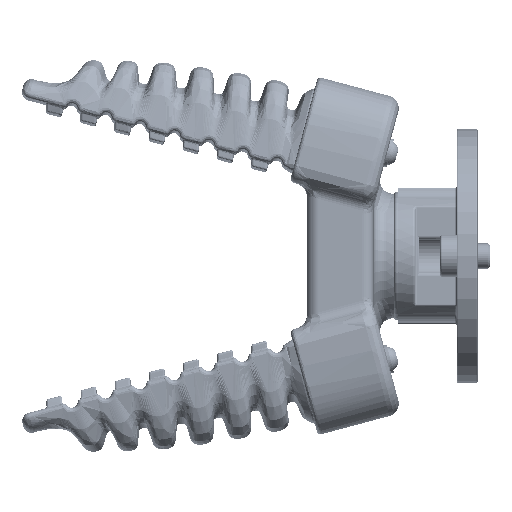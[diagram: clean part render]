
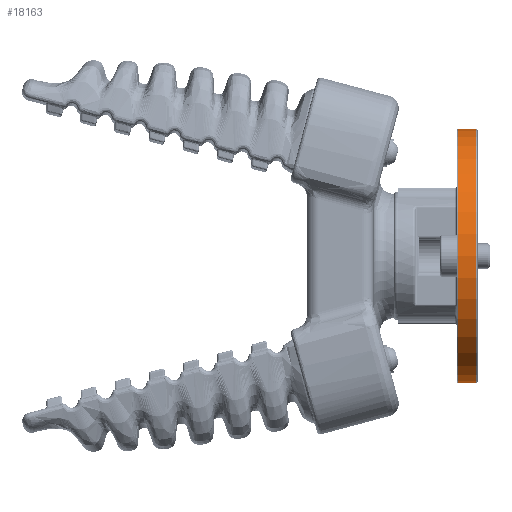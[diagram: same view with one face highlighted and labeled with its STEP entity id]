
A CAD part, top view. The second image highlights one B-rep face of the part: STEP entity #18163.
In plain terms, the highlighted cylindrical face has radius 30.5 mm (diameter 61 mm), a partial arc.
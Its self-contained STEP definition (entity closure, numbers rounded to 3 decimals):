
#2991 = VERTEX_POINT ( 'NONE', #52348 ) ;
#3306 = VECTOR ( 'NONE', #68168, 1000. ) ;
#4565 = CIRCLE ( 'NONE', #75333, 30.5 ) ;
#4987 = DIRECTION ( 'NONE',  ( -1., 0., 0. ) ) ;
#11929 = CARTESIAN_POINT ( 'NONE',  ( 30.5, 0., 18.7 ) ) ;
#16062 = CARTESIAN_POINT ( 'NONE',  ( 0., 0., 19. ) ) ;
#18163 = ADVANCED_FACE ( 'NONE', ( #141710 ), #128462, .T. ) ;
#21613 = EDGE_CURVE ( 'NONE', #2991, #143977, #38737, .T. ) ;
#22099 = AXIS2_PLACEMENT_3D ( 'NONE', #16062, #106258, #4987 ) ;
#33923 = EDGE_LOOP ( 'NONE', ( #68486, #139747, #76899, #57033 ) ) ;
#37082 = CARTESIAN_POINT ( 'NONE',  ( -30.5, 0., 14.3 ) ) ;
#38737 = CIRCLE ( 'NONE', #130921, 30.5 ) ;
#39280 = EDGE_CURVE ( 'NONE', #114781, #119460, #4565, .T. ) ;
#52348 = CARTESIAN_POINT ( 'NONE',  ( -30.5, 0., 18.7 ) ) ;
#57033 = ORIENTED_EDGE ( 'NONE', *, *, #65338, .F. ) ;
#57827 = LINE ( 'NONE', #100744, #3306 ) ;
#60153 = DIRECTION ( 'NONE',  ( 0., 0., -1. ) ) ;
#65338 = EDGE_CURVE ( 'NONE', #2991, #119460, #57827, .T. ) ;
#68168 = DIRECTION ( 'NONE',  ( 0., 0., -1. ) ) ;
#68486 = ORIENTED_EDGE ( 'NONE', *, *, #21613, .T. ) ;
#71233 = LINE ( 'NONE', #137816, #120270 ) ;
#75333 = AXIS2_PLACEMENT_3D ( 'NONE', #90240, #79176, #124307 ) ;
#76779 = CARTESIAN_POINT ( 'NONE',  ( 30.5, 0., 14.3 ) ) ;
#76899 = ORIENTED_EDGE ( 'NONE', *, *, #39280, .T. ) ;
#79176 = DIRECTION ( 'NONE',  ( 0., 0., 1. ) ) ;
#80722 = CARTESIAN_POINT ( 'NONE',  ( 0., 0., 18.7 ) ) ;
#90240 = CARTESIAN_POINT ( 'NONE',  ( 0., 0., 14.3 ) ) ;
#100744 = CARTESIAN_POINT ( 'NONE',  ( -30.5, 0., 19. ) ) ;
#106258 = DIRECTION ( 'NONE',  ( 0., 0., -1. ) ) ;
#114781 = VERTEX_POINT ( 'NONE', #76779 ) ;
#117487 = EDGE_CURVE ( 'NONE', #143977, #114781, #71233, .T. ) ;
#119460 = VERTEX_POINT ( 'NONE', #37082 ) ;
#120270 = VECTOR ( 'NONE', #60153, 1000. ) ;
#124307 = DIRECTION ( 'NONE',  ( 1., 0., 0. ) ) ;
#126596 = DIRECTION ( 'NONE',  ( 1., 0., 0. ) ) ;
#128462 = CYLINDRICAL_SURFACE ( 'NONE', #22099, 30.5 ) ;
#130921 = AXIS2_PLACEMENT_3D ( 'NONE', #80722, #137677, #126596 ) ;
#137677 = DIRECTION ( 'NONE',  ( 0., 0., -1. ) ) ;
#137816 = CARTESIAN_POINT ( 'NONE',  ( 30.5, 0., 19. ) ) ;
#139747 = ORIENTED_EDGE ( 'NONE', *, *, #117487, .T. ) ;
#141710 = FACE_OUTER_BOUND ( 'NONE', #33923, .T. ) ;
#143977 = VERTEX_POINT ( 'NONE', #11929 ) ;
